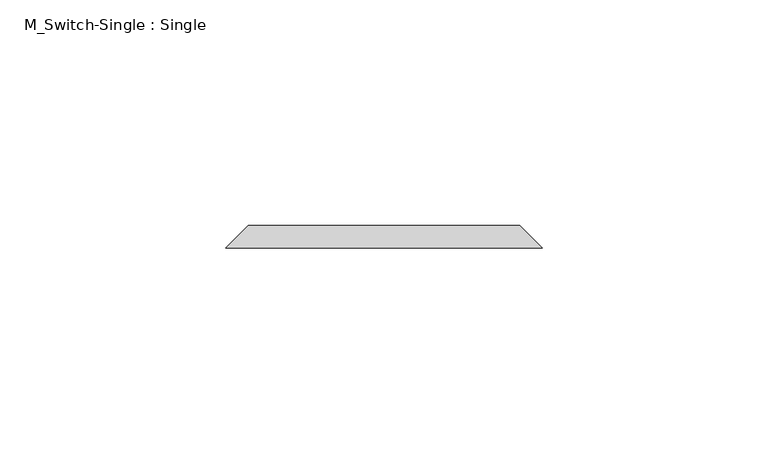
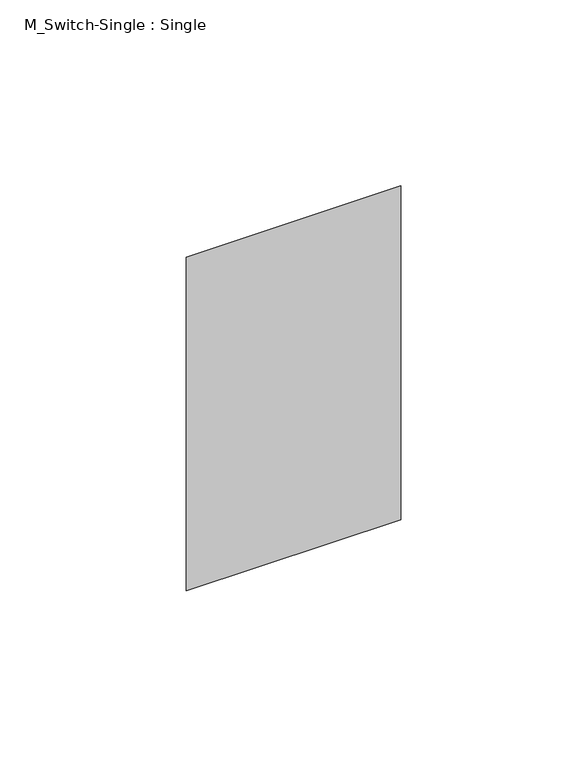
"""IFC4 building model written with IfcOpenShell, lengths in millimetres: proxy geometry, M_Switch-Single : Single."""

from ifc_helpers import new_model, si_unit, origin, place, context, project, spatial, faceted_brep, source, transform, mapped, element, save


def m_switch_single_single_bdcef15d(model_context):
    return source(origin(), model_context, "Body", "Brep", [
        faceted_brep([(95.0, 40.0, 1252.5), (155.0, 40.0, 1252.5), (155.0, 40.0, 1147.5), (95.0, 40.0, 1147.5), (90.0, 35.0, 1257.5), (90.0, 35.0, 1142.5), (160.0, 35.0, 1142.5), (160.0, 35.0, 1257.5)], [[[0, 1, 2, 3]], [[4, 5, 6, 7]], [[4, 7, 1, 0]], [[7, 6, 2, 1]], [[6, 5, 3, 2]], [[5, 4, 0, 3]]]),
    ])


if __name__ == "__main__":
    model = new_model("IFC4")
    model_context = context("Model", 3, world=origin())
    ifc_project = project(units=[si_unit("LENGTHUNIT", "METRE", prefix="MILLI")], contexts=[model_context])
    site = spatial("IfcSite", under=ifc_project)
    building = spatial("IfcBuilding", under=site)
    placement = place(None, origin())
    m_switch_single_single_shape = m_switch_single_single_bdcef15d(model_context)
    element("IfcBuildingElementProxy", 1, Name="M_Switch-Single : Single", ObjectType="M_Switch-Single : Single", at=placement, inside=building, context=model_context, shape_type="MappedRepresentation", body=[
        mapped(m_switch_single_single_shape, transform((0.0, 0.0, 0.0), x_axis=(1.0, 0.0, 0.0), y_axis=(0.0, 1.0, 0.0), z_axis=(0.0, 0.0, 1.0))),
    ])
    save(model, "model.ifc")
